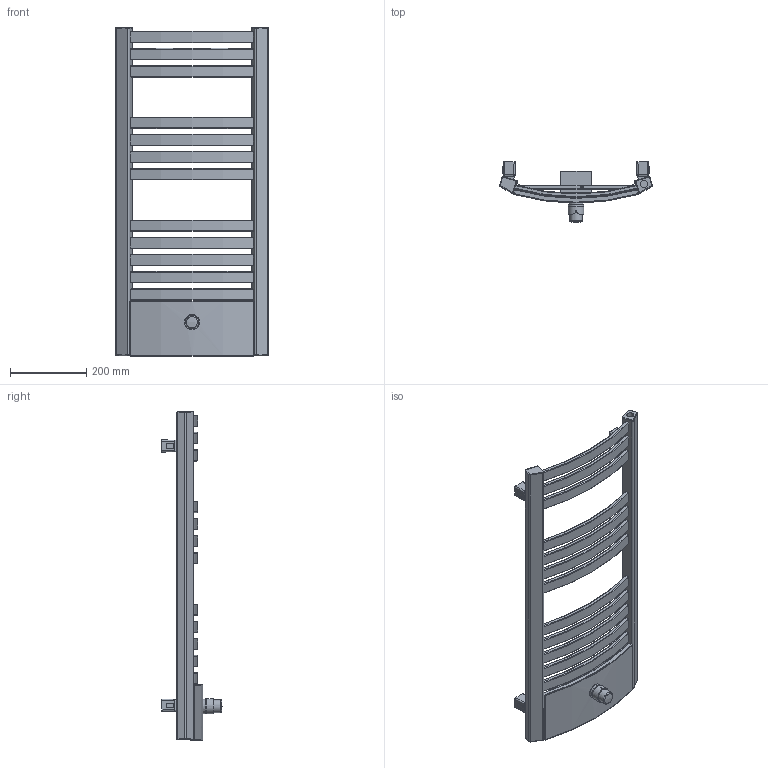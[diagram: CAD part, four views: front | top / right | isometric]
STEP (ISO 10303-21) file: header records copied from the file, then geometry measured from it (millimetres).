
FILE_DESCRIPTION((''),'2;1');
FILE_NAME('Z:\R\G\P\RGPH08 - Grzejnik Dexter pro\Work\Inventor\Dexter Pro v6.1\Marketing\STEP\DP-86-40-ZX.stp','2012-07-24T09:50:46',('PioRo'),(''),'Autodesk Inventor 2012','Autodesk Inventor 2012','');
FILE_SCHEMA(('AUTOMOTIVE_DESIGN { 1 0 10303 214 1 1 1 1 }'));
Length unit declared in the file: millimetre
Products named in the file (1): Część3
Bounding box: 399.78 x 157.71 x 862 mm (x, y, z)
Volume: 3703681.2 mm3; surface area: 759627.8 mm2
Topology: 1 solids, 3 shells, 547 faces, 1409 edges, 889 vertices
Faces by surface type: plane 245, cylinder 175, torus 87, bspline 32, cone 6, sphere 2
Full cylindrical faces by diameter (mm): 7 x3, 18.631 x3, 32.4 x1, 33 x1, 34 x1, 35 x1, 36 x1, 36.4 x1, 36.6 x1, 37.2 x1, 40 x1
Entity records: 18834 total; most frequent: CARTESIAN_POINT 5149, ORIENTED_EDGE 2758, DIRECTION 2665, EDGE_CURVE 1379, AXIS2_PLACEMENT_3D 970, VERTEX_POINT 882, VECTOR 725, LINE 725
